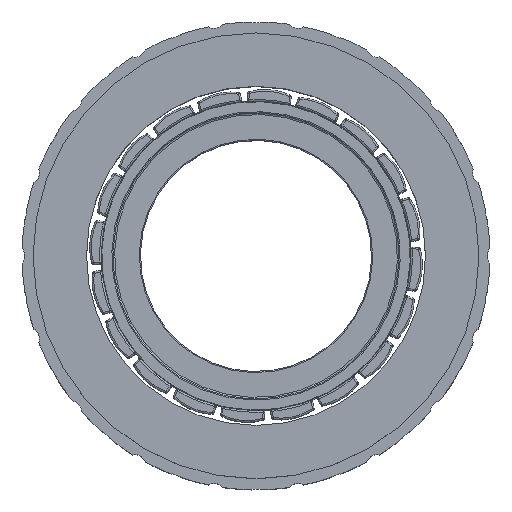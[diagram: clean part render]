
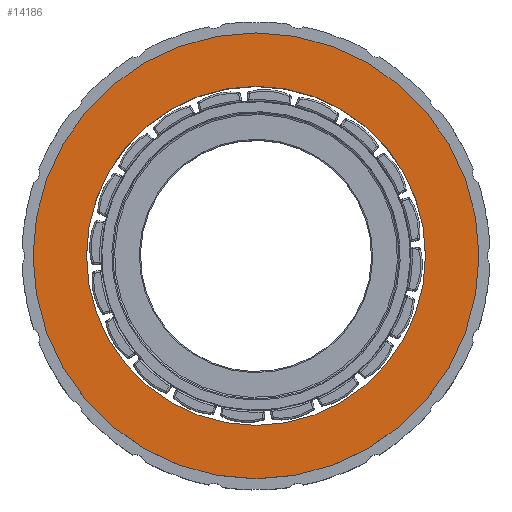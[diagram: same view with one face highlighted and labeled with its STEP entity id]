
A CAD part, top view. The second image highlights one B-rep face of the part: STEP entity #14186.
In plain terms, the highlighted planar face has unit normal (0, 0, 1).
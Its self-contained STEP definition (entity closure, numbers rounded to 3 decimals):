
#140 = DIRECTION ( 'NONE',  ( 0., 0., 1. ) ) ;
#494 = DIRECTION ( 'NONE',  ( 1., 0., 0. ) ) ;
#618 = CARTESIAN_POINT ( 'NONE',  ( 0., 0., 27.7 ) ) ;
#897 = AXIS2_PLACEMENT_3D ( 'NONE', #11026, #7167, #7044 ) ;
#1928 = EDGE_CURVE ( 'NONE', #13518, #3138, #13666, .T. ) ;
#2519 = EDGE_CURVE ( 'NONE', #3138, #13518, #3325, .T. ) ;
#2871 = PLANE ( 'NONE',  #24290 ) ;
#3138 = VERTEX_POINT ( 'NONE', #3544 ) ;
#3325 = CIRCLE ( 'NONE', #23643, 30.8 ) ;
#3402 = CARTESIAN_POINT ( 'NONE',  ( 0., 0., 27.7 ) ) ;
#3544 = CARTESIAN_POINT ( 'NONE',  ( 30.8, 0., 27.7 ) ) ;
#3805 = CARTESIAN_POINT ( 'NONE',  ( -40.5, 0., 27.7 ) ) ;
#4502 = DIRECTION ( 'NONE',  ( 0., 0., 1. ) ) ;
#4748 = CARTESIAN_POINT ( 'NONE',  ( 0., 0., 27.7 ) ) ;
#5057 = CARTESIAN_POINT ( 'NONE',  ( -30.8, 0., 27.7 ) ) ;
#5991 = DIRECTION ( 'NONE',  ( 1., 0., 0. ) ) ;
#6739 = DIRECTION ( 'NONE',  ( 1., 0., 0. ) ) ;
#7044 = DIRECTION ( 'NONE',  ( 1., 0., 0. ) ) ;
#7104 = ORIENTED_EDGE ( 'NONE', *, *, #20298, .T. ) ;
#7105 = ORIENTED_EDGE ( 'NONE', *, *, #1928, .F. ) ;
#7167 = DIRECTION ( 'NONE',  ( 0., 0., 1. ) ) ;
#7446 = AXIS2_PLACEMENT_3D ( 'NONE', #3402, #17208, #5991 ) ;
#7762 = DIRECTION ( 'NONE',  ( 1., 0., 0. ) ) ;
#8609 = FACE_OUTER_BOUND ( 'NONE', #9108, .T. ) ;
#8739 = EDGE_LOOP ( 'NONE', ( #12562, #7105 ) ) ;
#9108 = EDGE_LOOP ( 'NONE', ( #7104, #13711 ) ) ;
#11026 = CARTESIAN_POINT ( 'NONE',  ( 0., 0., 27.7 ) ) ;
#11790 = CARTESIAN_POINT ( 'NONE',  ( 40.5, 0., 27.7 ) ) ;
#12562 = ORIENTED_EDGE ( 'NONE', *, *, #2519, .F. ) ;
#13383 = CARTESIAN_POINT ( 'NONE',  ( 0., 0., 27.7 ) ) ;
#13518 = VERTEX_POINT ( 'NONE', #5057 ) ;
#13666 = CIRCLE ( 'NONE', #897, 30.8 ) ;
#13711 = ORIENTED_EDGE ( 'NONE', *, *, #15439, .T. ) ;
#14186 = ADVANCED_FACE ( 'NONE', ( #8609, #21826 ), #2871, .T. ) ;
#14820 = CIRCLE ( 'NONE', #20782, 40.5 ) ;
#15426 = CIRCLE ( 'NONE', #7446, 40.5 ) ;
#15439 = EDGE_CURVE ( 'NONE', #19857, #17649, #15426, .T. ) ;
#17208 = DIRECTION ( 'NONE',  ( 0., 0., 1. ) ) ;
#17592 = DIRECTION ( 'NONE',  ( 0., 0., 1. ) ) ;
#17649 = VERTEX_POINT ( 'NONE', #11790 ) ;
#19857 = VERTEX_POINT ( 'NONE', #3805 ) ;
#20298 = EDGE_CURVE ( 'NONE', #17649, #19857, #14820, .T. ) ;
#20782 = AXIS2_PLACEMENT_3D ( 'NONE', #13383, #140, #7762 ) ;
#21826 = FACE_BOUND ( 'NONE', #8739, .T. ) ;
#23643 = AXIS2_PLACEMENT_3D ( 'NONE', #4748, #17592, #494 ) ;
#24290 = AXIS2_PLACEMENT_3D ( 'NONE', #618, #4502, #6739 ) ;
